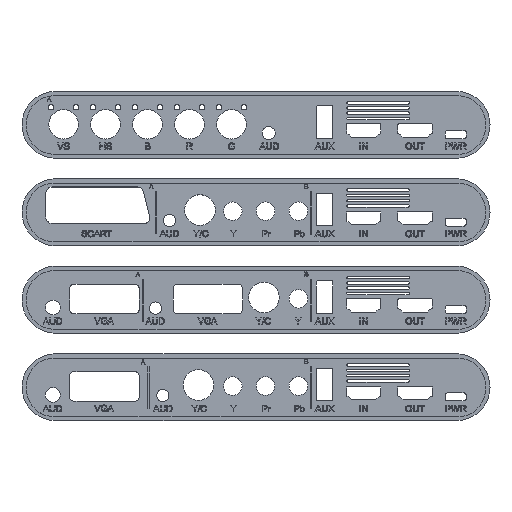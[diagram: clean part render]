
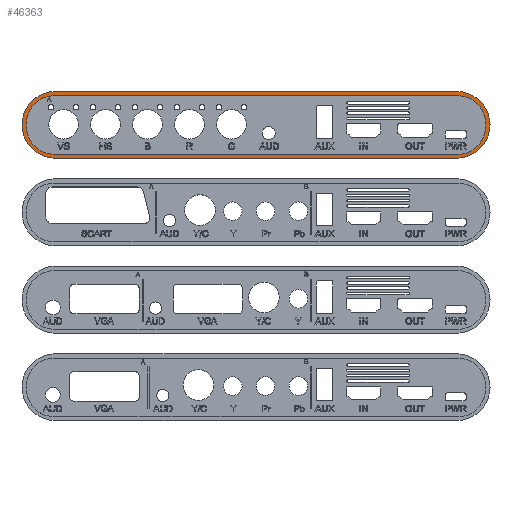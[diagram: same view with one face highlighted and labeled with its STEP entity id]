
A CAD part, top view. The second image highlights one B-rep face of the part: STEP entity #46363.
In plain terms, the highlighted planar face has unit normal (0, 0, 1).
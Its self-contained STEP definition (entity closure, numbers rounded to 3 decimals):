
#295=FACE_BOUND('',#9213,.T.);
#4231=PLANE('',#48471);
#6490=FACE_OUTER_BOUND('',#9212,.T.);
#9212=EDGE_LOOP('',(#42303,#42304,#42305,#42306));
#9213=EDGE_LOOP('',(#42307,#42308,#42309,#42310,#42311,#42312,#42313,#42314));
#13613=LINE('',#83267,#18114);
#13615=LINE('',#83274,#18116);
#13616=LINE('',#83277,#18117);
#13617=LINE('',#83281,#18118);
#13618=LINE('',#83285,#18119);
#13619=LINE('',#83289,#18120);
#18114=VECTOR('',#56219,10.);
#18116=VECTOR('',#56227,10.);
#18117=VECTOR('',#56228,10.);
#18118=VECTOR('',#56231,10.);
#18119=VECTOR('',#56234,10.);
#18120=VECTOR('',#56237,10.);
#19015=CIRCLE('',#48472,15.31);
#19016=CIRCLE('',#48473,15.31);
#19017=CIRCLE('',#48474,12.75);
#19018=CIRCLE('',#48475,12.75);
#19019=CIRCLE('',#48476,12.75);
#19020=CIRCLE('',#48477,12.792);
#23231=VERTEX_POINT('',#83264);
#23232=VERTEX_POINT('',#83266);
#23233=VERTEX_POINT('',#83270);
#23234=VERTEX_POINT('',#83272);
#23235=VERTEX_POINT('',#83275);
#23236=VERTEX_POINT('',#83276);
#23237=VERTEX_POINT('',#83278);
#23238=VERTEX_POINT('',#83280);
#23239=VERTEX_POINT('',#83282);
#23240=VERTEX_POINT('',#83284);
#23241=VERTEX_POINT('',#83286);
#23242=VERTEX_POINT('',#83288);
#29715=EDGE_CURVE('',#23232,#23231,#13613,.T.);
#29717=EDGE_CURVE('',#23233,#23232,#19015,.T.);
#29718=EDGE_CURVE('',#23231,#23234,#19016,.T.);
#29719=EDGE_CURVE('',#23234,#23233,#13615,.T.);
#29720=EDGE_CURVE('',#23235,#23236,#13616,.T.);
#29721=EDGE_CURVE('',#23236,#23237,#19017,.T.);
#29722=EDGE_CURVE('',#23237,#23238,#13617,.T.);
#29723=EDGE_CURVE('',#23238,#23239,#19018,.T.);
#29724=EDGE_CURVE('',#23239,#23240,#13618,.T.);
#29725=EDGE_CURVE('',#23240,#23241,#19019,.T.);
#29726=EDGE_CURVE('',#23241,#23242,#13619,.T.);
#29727=EDGE_CURVE('',#23242,#23235,#19020,.T.);
#42303=ORIENTED_EDGE('',*,*,#29717,.T.);
#42304=ORIENTED_EDGE('',*,*,#29715,.T.);
#42305=ORIENTED_EDGE('',*,*,#29718,.T.);
#42306=ORIENTED_EDGE('',*,*,#29719,.T.);
#42307=ORIENTED_EDGE('',*,*,#29720,.T.);
#42308=ORIENTED_EDGE('',*,*,#29721,.T.);
#42309=ORIENTED_EDGE('',*,*,#29722,.T.);
#42310=ORIENTED_EDGE('',*,*,#29723,.T.);
#42311=ORIENTED_EDGE('',*,*,#29724,.T.);
#42312=ORIENTED_EDGE('',*,*,#29725,.T.);
#42313=ORIENTED_EDGE('',*,*,#29726,.T.);
#42314=ORIENTED_EDGE('',*,*,#29727,.T.);
#46363=ADVANCED_FACE('',(#6490,#295),#4231,.T.);
#48471=AXIS2_PLACEMENT_3D('',#83269,#56221,#56222);
#48472=AXIS2_PLACEMENT_3D('',#83271,#56223,#56224);
#48473=AXIS2_PLACEMENT_3D('',#83273,#56225,#56226);
#48474=AXIS2_PLACEMENT_3D('',#83279,#56229,#56230);
#48475=AXIS2_PLACEMENT_3D('',#83283,#56232,#56233);
#48476=AXIS2_PLACEMENT_3D('',#83287,#56235,#56236);
#48477=AXIS2_PLACEMENT_3D('',#83290,#56238,#56239);
#56219=DIRECTION('',(1.,0.,0.));
#56221=DIRECTION('center_axis',(0.,0.,1.));
#56222=DIRECTION('ref_axis',(1.,0.,0.));
#56223=DIRECTION('center_axis',(0.,0.,1.));
#56224=DIRECTION('ref_axis',(-0.037,0.999,0.));
#56225=DIRECTION('center_axis',(0.,0.,1.));
#56226=DIRECTION('ref_axis',(0.037,-0.999,0.));
#56227=DIRECTION('',(-1.,0.,0.));
#56228=DIRECTION('',(-1.,0.,0.));
#56229=DIRECTION('center_axis',(0.,0.,-1.));
#56230=DIRECTION('ref_axis',(-1.,0.,0.));
#56231=DIRECTION('',(0.,1.,0.));
#56232=DIRECTION('center_axis',(0.,0.,-1.));
#56233=DIRECTION('ref_axis',(0.,1.,0.));
#56234=DIRECTION('',(1.,0.,0.));
#56235=DIRECTION('center_axis',(0.,0.,-1.));
#56236=DIRECTION('ref_axis',(1.,0.,0.));
#56237=DIRECTION('',(0.,-1.,0.));
#56238=DIRECTION('center_axis',(0.,0.,-1.));
#56239=DIRECTION('ref_axis',(0.003,-1.,0.));
#83264=CARTESIAN_POINT('',(199.25,25.95,4.));
#83266=CARTESIAN_POINT('',(14.75,25.95,4.));
#83267=CARTESIAN_POINT('',(60.875,25.95,4.));
#83269=CARTESIAN_POINT('Origin',(107.,41.25,4.));
#83270=CARTESIAN_POINT('',(14.75,56.55,4.));
#83271=CARTESIAN_POINT('Origin',(15.31,41.25,4.));
#83272=CARTESIAN_POINT('',(199.25,56.55,4.));
#83273=CARTESIAN_POINT('Origin',(198.69,41.25,4.));
#83274=CARTESIAN_POINT('',(153.125,56.55,4.));
#83275=CARTESIAN_POINT('',(199.25,27.708,4.));
#83276=CARTESIAN_POINT('',(14.75,27.75,4.));
#83277=CARTESIAN_POINT('',(60.873,27.74,4.));
#83278=CARTESIAN_POINT('',(2.,40.5,4.));
#83279=CARTESIAN_POINT('Origin',(14.75,40.5,4.));
#83280=CARTESIAN_POINT('',(2.,41.8,4.));
#83281=CARTESIAN_POINT('',(2.,41.521,4.));
#83282=CARTESIAN_POINT('',(14.75,54.55,4.));
#83283=CARTESIAN_POINT('Origin',(14.75,41.8,4.));
#83284=CARTESIAN_POINT('',(199.25,54.55,4.));
#83285=CARTESIAN_POINT('',(153.125,54.55,4.));
#83286=CARTESIAN_POINT('',(212.,41.8,4.));
#83287=CARTESIAN_POINT('Origin',(199.25,41.8,4.));
#83288=CARTESIAN_POINT('',(212.,40.5,4.));
#83289=CARTESIAN_POINT('',(212.,40.875,4.));
#83290=CARTESIAN_POINT('Origin',(199.208,40.5,4.));
